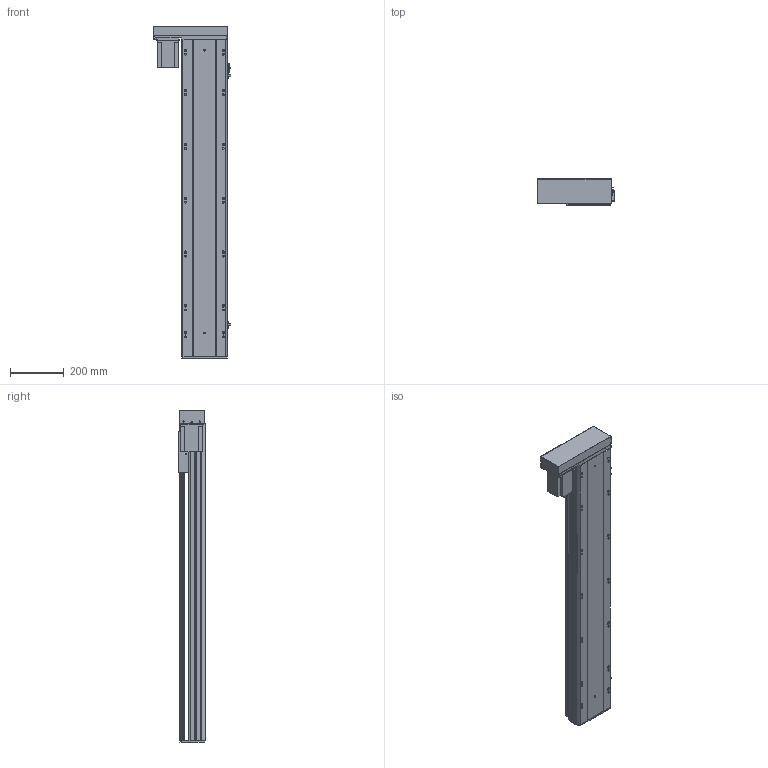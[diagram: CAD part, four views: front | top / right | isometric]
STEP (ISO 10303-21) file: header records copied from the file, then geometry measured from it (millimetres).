
FILE_DESCRIPTION (( 'STEP AP203' ), '1' );
FILE_NAME ('Y170-D10-S950-BL-P750W.STEP', '2020-01-19T23:07:41', ( '微软用户' ), ( '微软中国' ), 'SwSTEP 2.0', 'SolidWorks 2017', '' );
FILE_SCHEMA (( 'CONFIG_CONTROL_DESIGN' ));
Length unit declared in the file: millimetre
Products named in the file (12): Y170-BL-P750W楊擘啣; 侂狟750W; EGH20賑輸_蕼偞; Y雄赽釱-耜蚾; Y-BL.BR-俋欶; Y170耜裔--準---; Y170-陔遴奻裔-BR; YD-Y100-135-新外置传感挡片(通用）; Y--BL蟀諉啣-陔遴-; Y100-135俋离換覜ん; Y170-D10-S950-BL-P750W; 170--掛极-BR
Assembly tree (14 placements, depth 2):
  Y170-D10-S950-BL-P750W
    Y170耜裔--準---
    YD-Y100-135-新外置传感挡片(通用）
    Y100-135俋离換覜ん  x3
    170--掛极-BR
    Y170-BL-P750W楊擘啣
    侂狟750W
    EGH20賑輸_蕼偞  x2
    Y雄赽釱-耜蚾
    Y-BL.BR-俋欶
    Y170-陔遴奻裔-BR
    Y--BL蟀諉啣-陔遴-
Bounding box: 289 x 97 x 1233.5 mm (x, y, z)
Volume: 5895560.6 mm3; surface area: 2038450.8 mm2
Topology: 14 solids, 14 shells, 933 faces, 2642 edges, 1744 vertices
Faces by surface type: cylinder 474, plane 443, cone 16
Entity records: 29690 total; most frequent: CARTESIAN_POINT 5302, DIRECTION 4908, ORIENTED_EDGE 4780, EDGE_CURVE 2390, AXIS2_PLACEMENT_3D 1746, VERTEX_POINT 1588, LINE 1416, VECTOR 1416
